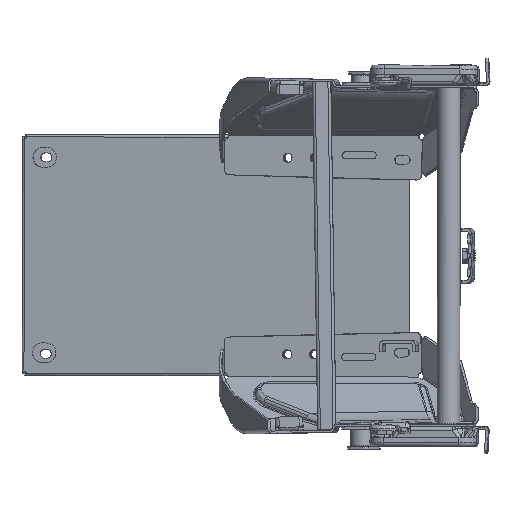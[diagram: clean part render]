
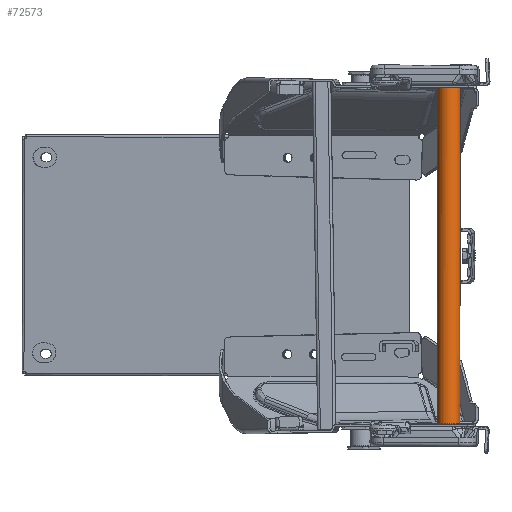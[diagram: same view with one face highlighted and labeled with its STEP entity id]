
A CAD part, top view. The second image highlights one B-rep face of the part: STEP entity #72573.
In plain terms, the highlighted cylindrical face has radius 12.5 mm (diameter 25 mm), a partial arc.
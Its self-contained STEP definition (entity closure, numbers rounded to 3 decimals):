
#72513=AXIS2_PLACEMENT_3D('Cylinder Axis2P3D',#72510,#72511,#72512) ;
#72510=CARTESIAN_POINT('Axis2P3D Location',(-57.964,728.022,513.139)) ;
#72516=CARTESIAN_POINT('Control Point',(-70.86,545.384,513.831)) ;
#72517=CARTESIAN_POINT('Control Point',(-70.742,545.383,515.791)) ;
#72518=CARTESIAN_POINT('Control Point',(-70.239,545.381,517.728)) ;
#72519=CARTESIAN_POINT('Control Point',(-69.357,545.378,519.541)) ;
#72520=CARTESIAN_POINT('Control Point',(-66.93,545.37,522.723)) ;
#72521=CARTESIAN_POINT('Control Point',(-63.48,545.361,524.75)) ;
#72522=CARTESIAN_POINT('Control Point',(-61.574,545.356,525.409)) ;
#72523=CARTESIAN_POINT('Control Point',(-57.608,545.345,525.942)) ;
#72524=CARTESIAN_POINT('Control Point',(-53.734,545.336,524.937)) ;
#72525=CARTESIAN_POINT('Control Point',(-51.922,545.331,524.055)) ;
#72526=CARTESIAN_POINT('Control Point',(-48.74,545.324,521.628)) ;
#72527=CARTESIAN_POINT('Control Point',(-46.712,545.32,518.177)) ;
#72528=CARTESIAN_POINT('Control Point',(-46.054,545.319,516.272)) ;
#72529=CARTESIAN_POINT('Control Point',(-45.787,545.319,514.289)) ;
#72530=CARTESIAN_POINT('Control Point',(-45.905,545.32,512.329)) ;
#72531=CARTESIAN_POINT('Vertex',(-70.86,545.384,513.831)) ;
#72533=CARTESIAN_POINT('Vertex',(-45.905,545.32,512.329)) ;
#72536=CARTESIAN_POINT('Line Origine',(-45.486,727.993,512.388)) ;
#72540=CARTESIAN_POINT('Vertex',(-45.058,914.754,512.448)) ;
#72544=CARTESIAN_POINT('Control Point',(-70.013,914.803,513.95)) ;
#72545=CARTESIAN_POINT('Control Point',(-69.895,914.803,515.91)) ;
#72546=CARTESIAN_POINT('Control Point',(-69.392,914.801,517.847)) ;
#72547=CARTESIAN_POINT('Control Point',(-68.51,914.799,519.66)) ;
#72548=CARTESIAN_POINT('Control Point',(-66.083,914.793,522.842)) ;
#72549=CARTESIAN_POINT('Control Point',(-62.633,914.786,524.869)) ;
#72550=CARTESIAN_POINT('Control Point',(-60.728,914.782,525.528)) ;
#72551=CARTESIAN_POINT('Control Point',(-56.761,914.773,526.061)) ;
#72552=CARTESIAN_POINT('Control Point',(-52.888,914.766,525.056)) ;
#72553=CARTESIAN_POINT('Control Point',(-51.075,914.762,524.174)) ;
#72554=CARTESIAN_POINT('Control Point',(-47.893,914.757,521.747)) ;
#72555=CARTESIAN_POINT('Control Point',(-45.865,914.754,518.296)) ;
#72556=CARTESIAN_POINT('Control Point',(-45.207,914.753,516.391)) ;
#72557=CARTESIAN_POINT('Control Point',(-44.94,914.753,514.408)) ;
#72558=CARTESIAN_POINT('Control Point',(-45.058,914.754,512.448)) ;
#72559=CARTESIAN_POINT('Vertex',(-70.013,914.803,513.95)) ;
#72562=CARTESIAN_POINT('Line Origine',(-70.441,728.05,513.89)) ;
#72511=DIRECTION('Axis2P3D Direction',(-0.002,-1.,0.)) ;
#72512=DIRECTION('Axis2P3D XDirection',(0.998,-0.002,-0.06)) ;
#72537=DIRECTION('Vector Direction',(-0.002,-1.,0.)) ;
#72563=DIRECTION('Vector Direction',(-0.002,-1.,0.)) ;
#72538=VECTOR('Line Direction',#72537,1.) ;
#72564=VECTOR('Line Direction',#72563,1.) ;
#72568=ORIENTED_EDGE('',*,*,#72535,.T.) ;
#72569=ORIENTED_EDGE('',*,*,#72542,.F.) ;
#72570=ORIENTED_EDGE('',*,*,#72561,.F.) ;
#72571=ORIENTED_EDGE('',*,*,#72566,.F.) ;
#72573=ADVANCED_FACE('\X2\540E8FDE63A57BA1\X0\',(#72572),#72514,.T.) ;
#72515=B_SPLINE_CURVE_WITH_KNOTS('',5,(#72516,#72517,#72518,#72519,#72520,#72521,#72522,#72523,#72524,#72525,#72526,#72527,#72528,#72529,#72530),.UNSPECIFIED.,.F.,.U.,(6,3,3,3,6),(0.,13.974,27.949,41.923,55.897),.UNSPECIFIED.) ;
#72543=B_SPLINE_CURVE_WITH_KNOTS('',5,(#72544,#72545,#72546,#72547,#72548,#72549,#72550,#72551,#72552,#72553,#72554,#72555,#72556,#72557,#72558),.UNSPECIFIED.,.F.,.U.,(6,3,3,3,6),(0.,13.974,27.949,41.923,55.897),.UNSPECIFIED.) ;
#72514=CYLINDRICAL_SURFACE('generated cylinder',#72513,12.5) ;
#72535=EDGE_CURVE('',#72532,#72534,#72515,.T.) ;
#72542=EDGE_CURVE('',#72541,#72534,#72539,.T.) ;
#72561=EDGE_CURVE('',#72560,#72541,#72543,.T.) ;
#72566=EDGE_CURVE('',#72532,#72560,#72565,.F.) ;
#72567=EDGE_LOOP('',(#72568,#72569,#72570,#72571)) ;
#72572=FACE_OUTER_BOUND('',#72567,.T.) ;
#72539=LINE('Line',#72536,#72538) ;
#72565=LINE('Line',#72562,#72564) ;
#72532=VERTEX_POINT('',#72531) ;
#72534=VERTEX_POINT('',#72533) ;
#72541=VERTEX_POINT('',#72540) ;
#72560=VERTEX_POINT('',#72559) ;
